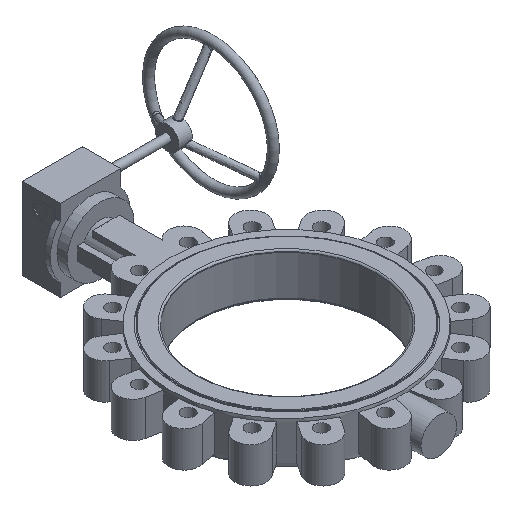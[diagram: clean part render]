
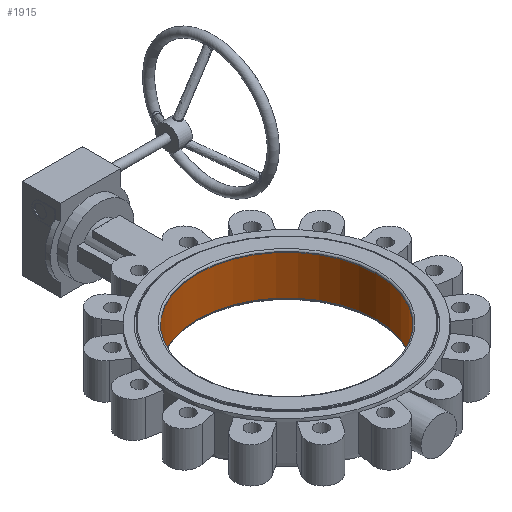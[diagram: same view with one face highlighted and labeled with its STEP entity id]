
A CAD part, isometric view. The second image highlights one B-rep face of the part: STEP entity #1915.
In plain terms, the highlighted cylindrical face has radius 167.318 mm (diameter 334.636 mm), a full revolution.
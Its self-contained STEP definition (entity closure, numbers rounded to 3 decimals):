
#265 = CARTESIAN_POINT ( 'NONE',  ( 37.008, 0., 167.318 ) ) ;
#381 = CARTESIAN_POINT ( 'NONE',  ( -37.008, 0., 0. ) ) ;
#1281 = AXIS2_PLACEMENT_3D ( 'NONE', #3701, #1697, #7564 ) ;
#1387 = VERTEX_POINT ( 'NONE', #4840 ) ;
#1457 = FACE_OUTER_BOUND ( 'NONE', #6411, .T. ) ;
#1570 = VERTEX_POINT ( 'NONE', #265 ) ;
#1697 = DIRECTION ( 'NONE',  ( -1., 0., 0. ) ) ;
#1825 = DIRECTION ( 'NONE',  ( 0., 0., 1. ) ) ;
#1915 = ADVANCED_FACE ( 'NONE', ( #1457, #6967 ), #6570, .F. ) ;
#2299 = ORIENTED_EDGE ( 'NONE', *, *, #4127, .T. ) ;
#2541 = CARTESIAN_POINT ( 'NONE',  ( 0., 0., 0. ) ) ;
#3101 = AXIS2_PLACEMENT_3D ( 'NONE', #2541, #7107, #7784 ) ;
#3524 = EDGE_CURVE ( 'NONE', #1570, #1570, #8450, .T. ) ;
#3701 = CARTESIAN_POINT ( 'NONE',  ( 37.008, 0., 0. ) ) ;
#3841 = ORIENTED_EDGE ( 'NONE', *, *, #3524, .F. ) ;
#4127 = EDGE_CURVE ( 'NONE', #1387, #1387, #6795, .T. ) ;
#4840 = CARTESIAN_POINT ( 'NONE',  ( -37.008, 0., 167.318 ) ) ;
#5123 = EDGE_LOOP ( 'NONE', ( #2299 ) ) ;
#6411 = EDGE_LOOP ( 'NONE', ( #3841 ) ) ;
#6570 = CYLINDRICAL_SURFACE ( 'NONE', #3101, 167.318 ) ;
#6795 = CIRCLE ( 'NONE', #6862, 167.318 ) ;
#6862 = AXIS2_PLACEMENT_3D ( 'NONE', #381, #8176, #1825 ) ;
#6967 = FACE_OUTER_BOUND ( 'NONE', #5123, .T. ) ;
#7107 = DIRECTION ( 'NONE',  ( -1., 0., 0. ) ) ;
#7564 = DIRECTION ( 'NONE',  ( 0., 0., 1. ) ) ;
#7784 = DIRECTION ( 'NONE',  ( 0., 0., 1. ) ) ;
#8176 = DIRECTION ( 'NONE',  ( -1., 0., 0. ) ) ;
#8450 = CIRCLE ( 'NONE', #1281, 167.318 ) ;
